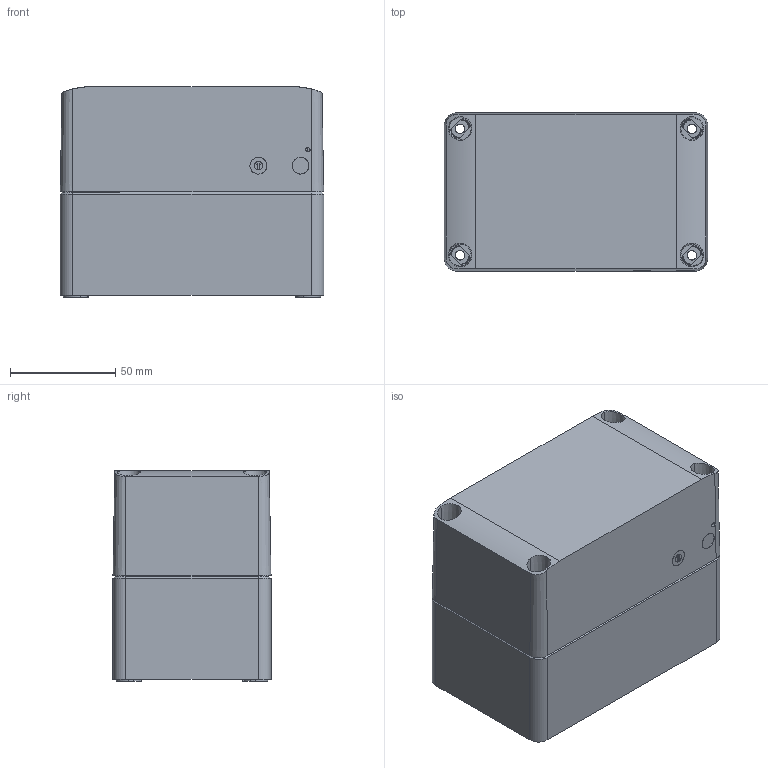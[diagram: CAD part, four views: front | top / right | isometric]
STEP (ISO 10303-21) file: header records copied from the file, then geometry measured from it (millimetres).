
FILE_DESCRIPTION (( 'STEP AP203' ), '1' );
FILE_NAME ('q13810pcecc.STEP', '2017-07-06T18:50:49', ( '' ), ( '' ), 'SwSTEP 2.0', 'SolidWorks 2014', '' );
FILE_SCHEMA (( 'CONFIG_CONTROL_DESIGN' ));
Length unit declared in the file: millimetre
Products named in the file (3): 89157584; 89157630; q13810pcecc
Assembly tree (2 placements, depth 2):
  q13810pcecc
    89157584
    89157630
Bounding box: 125 x 75 x 100 mm (x, y, z)
Volume: 107211.7 mm3; surface area: 131869.6 mm2
Topology: 1 solids, 2 shells, 1012 faces, 2885 edges, 1950 vertices
Faces by surface type: plane 600, cylinder 238, cone 106, bspline 68
Entity records: 70864 total; most frequent: CARTESIAN_POINT 46061, ORIENTED_EDGE 5726, DIRECTION 4080, EDGE_CURVE 2885, VERTEX_POINT 1953, VECTOR 1506, LINE 1506, AXIS2_PLACEMENT_3D 1287
